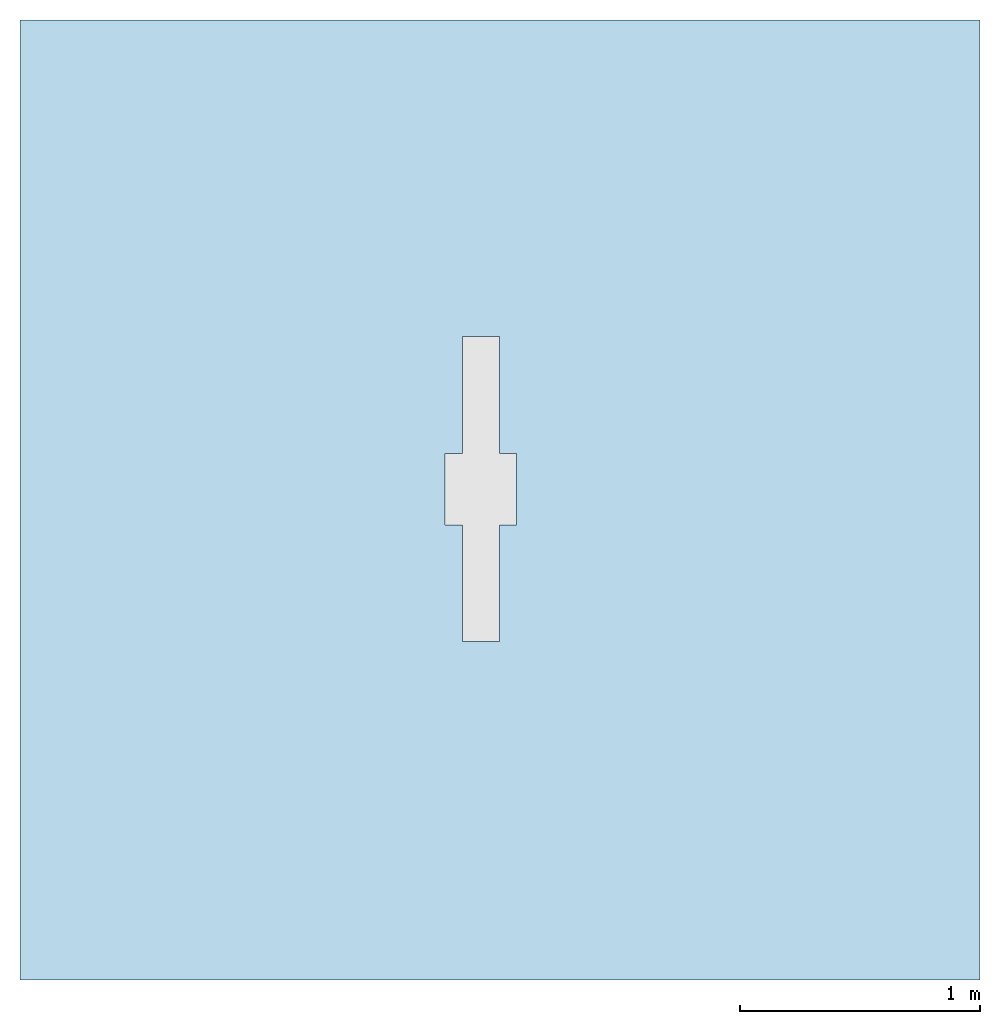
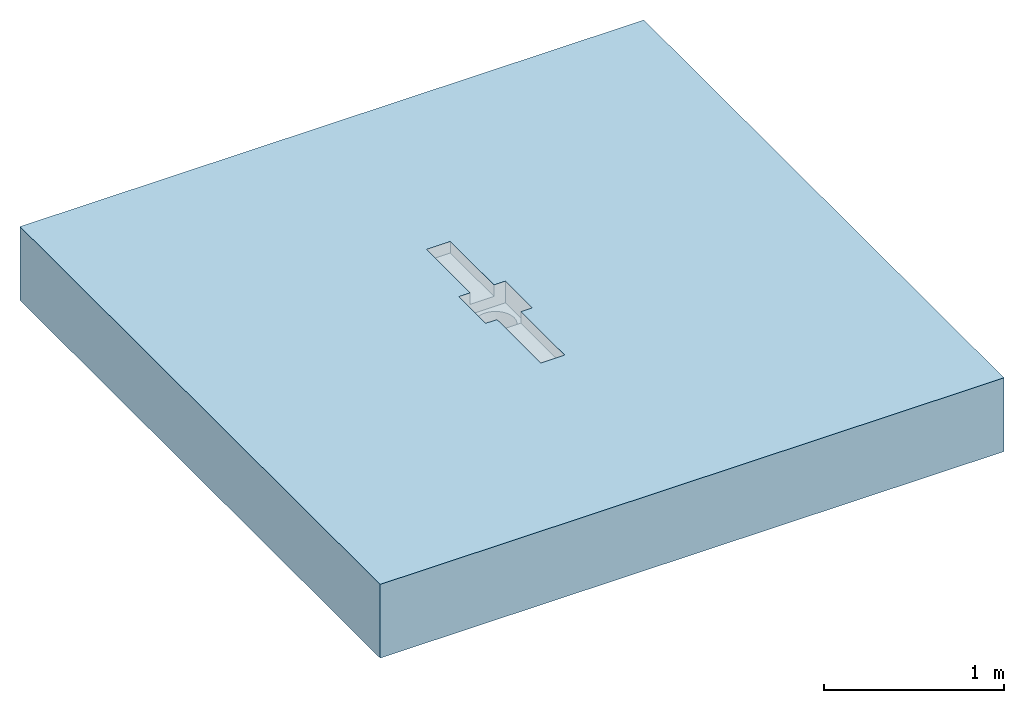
# One storey, incomplete: 1 slab, 1 opening.
"""IFC2X3 building model written with IfcOpenShell, lengths in millimetres."""

from ifc_helpers import new_model, entity, si_unit, converted_unit, direction, frame, frame_2d, origin, place, context, subcontext, project, spatial, rectangle, extrude, faceted_brep, material, layer, layer_set, layer_usage, element, save


model = new_model("IFC2X3")

# Units and contexts
model_context = context("Model", 3, precision=1e-06, world=origin(), true_north=direction((2.0, 6.12303176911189e-17, 1.0)))
context_of_model = context(None, 3, precision=1e-06, world=origin(), true_north=direction((2.0, 6.12303176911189e-17, 1.0)))
body_context = subcontext(model_context, "Body", "Model", "MODEL_VIEW")
ifc_project = project(units=[si_unit("LENGTHUNIT", "METRE", prefix="MILLI"), si_unit("AREAUNIT", "SQUARE_METRE", prefix="MILLI"), si_unit("VOLUMEUNIT", "CUBIC_METRE", prefix="MILLI"), converted_unit("PLANEANGLEUNIT", "DEGREE", entity("IfcRatioMeasure", 0.0174532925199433), si_unit("PLANEANGLEUNIT", "RADIAN"), dimensions=[0, 0, 0, 0, 0, 0, 0]), si_unit("TIMEUNIT", "SECOND")], contexts=[model_context, context_of_model])

# Site, building, storey
site_placement = place(None, origin())
site = spatial("IfcSite", under=ifc_project, at=site_placement, Name="Default", CompositionType="ELEMENT")
building_placement = place(site_placement, origin())
building = spatial("IfcBuilding", under=site, at=building_placement, CompositionType="ELEMENT")
storey_placement = place(building_placement, origin())
storey = spatial("IfcBuildingStorey", under=building, at=storey_placement, Name="Level 1", CompositionType="ELEMENT", Elevation=0.0)

# Slab, opening
ifc_material = material(Name="Concrete, Broom Finish")
ifc_layer = layer(ifc_material, 500.0)
ifc_layer_set = layer_set([ifc_layer], Name="Floor:Generic Floor - 500mm")
ifc_layer_usage = layer_usage(ifc_layer_set, "AXIS3", "POSITIVE", 0.0)
slab_placement = place(storey_placement, origin())
slab = element("IfcSlab", 1, at=slab_placement, inside=storey, material=ifc_layer_usage, Name="Floor:Generic Floor - 500mm", ObjectType="Floor:Generic Floor - 500mm", PredefinedType="FLOOR", context=body_context, shape_type="SweptSolid", body=[
    extrude(rectangle(XDim=4000.0, YDim=4000.0, at=frame_2d((0.0, 0.0), x_axis=(-1.0, 0.0))), frame((-419.114478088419, -735.273497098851, 0.0), z_axis=(0.0, 0.0, -1.0), x_axis=(-1.0, 0.0, 0.0)), (0.0, 0.0, 1.0), 500.0),
])
opening_placement = place(slab_placement, frame((-647.542058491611, -1324.80594348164, -378.300000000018)))
element("IfcOpeningElement", 2, at=opening_placement, cuts=slab, ObjectType="Recess", context=body_context, shape_type="Brep", body=[
    faceted_brep([(72.5000000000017, 0.0, 300.500000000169), (72.5000000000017, 486.0, 300.500000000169), (72.5000000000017, 486.0, 378.300000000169), (72.5000000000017, 0.0, 378.300000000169), (72.5000000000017, 784.0, 378.300000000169), (72.5000000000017, 1270.0, 300.500000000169), (72.5000000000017, 1270.0, 378.300000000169), (72.5000000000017, 784.0, 300.500000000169), (225.499999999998, 784.0, 300.500000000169), (225.499999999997, 1270.0, 378.300000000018), (225.499999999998, 1270.0, 300.500000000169), (225.499999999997, 784.0, 378.300000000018), (225.499999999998, 0.0, 300.500000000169), (225.499999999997, 486.0, 378.300000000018), (225.499999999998, 486.0, 300.500000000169), (225.499999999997, 0.0, 378.300000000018), (0.0, 784.0, 378.30000000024), (298.0, 784.0, 378.299999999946), (0.0, 486.0, 378.30000000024), (298.0, 486.0, 378.299999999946), (33.0889008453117, 666.058285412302, 232.050000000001), (45.0769515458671, 695.0, 232.050000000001), (0.0, 784.0, 232.050000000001), (64.1471862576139, 719.852813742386, 232.050000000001), (29.0, 635.0, 232.050000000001), (117.941714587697, 750.911099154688, 232.050000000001), (149.0, 755.0, 232.050000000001), (89.0, 738.923048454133, 232.050000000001), (298.0, 784.0, 232.050000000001), (33.0889008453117, 603.941714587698, 232.050000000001), (0.0, 486.0, 232.050000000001), (45.0769515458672, 575.0, 232.050000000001), (64.147186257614, 550.147186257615, 232.050000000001), (117.941714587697, 519.088900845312, 232.050000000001), (89.0, 531.076951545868, 232.050000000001), (149.0, 515.0, 232.050000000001), (180.058285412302, 750.911099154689, 232.050000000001), (209.0, 738.923048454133, 232.050000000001), (233.852813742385, 719.852813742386, 232.050000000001), (264.911099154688, 666.058285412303, 232.050000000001), (252.923048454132, 695.0, 232.050000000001), (269.0, 635.0, 232.050000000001), (298.0, 486.0, 232.050000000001), (209.0, 531.076951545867, 232.050000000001), (180.058285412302, 519.088900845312, 232.050000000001), (264.911099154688, 603.941714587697, 232.050000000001), (252.923048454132, 575.0, 232.050000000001), (233.852813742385, 550.147186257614, 232.050000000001), (180.058285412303, 750.911099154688, 0.0), (149.0, 755.0, 0.0), (233.852813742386, 719.852813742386, 0.0), (209.0, 738.923048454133, 0.0), (264.911099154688, 666.058285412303, 0.0), (252.923048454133, 695.0, 0.0), (45.0769515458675, 695.0, 0.0), (29.0, 635.0, 0.0), (64.1471862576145, 719.852813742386, 0.0), (89.0, 738.923048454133, 0.0), (117.941714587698, 750.911099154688, 0.0), (33.0889008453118, 666.058285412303, 0.0), (45.0769515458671, 575.0, 0.0), (264.911099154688, 603.941714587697, 0.0), (64.147186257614, 550.147186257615, 0.0), (252.923048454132, 575.0, 0.0), (233.852813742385, 550.147186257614, 0.0), (180.058285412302, 519.088900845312, 0.0), (209.0, 531.076951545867, 0.0), (33.0889008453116, 603.941714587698, 0.0), (117.941714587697, 519.088900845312, 0.0), (149.0, 515.0, 0.0), (89.0, 531.076951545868, 0.0), (269.0, 635.0, 0.0)], [[[0, 1, 2]], [[2, 3, 0]], [[4, 5, 6]], [[5, 4, 7]], [[8, 9, 10]], [[9, 8, 11]], [[12, 13, 14]], [[13, 12, 15]], [[7, 10, 5]], [[10, 7, 8]], [[0, 14, 1]], [[14, 0, 12]], [[5, 9, 6]], [[9, 5, 10]], [[15, 12, 0]], [[0, 3, 15]], [[2, 16, 4]], [[11, 4, 6]], [[6, 9, 11]], [[13, 11, 17]], [[11, 13, 4]], [[16, 2, 18]], [[13, 3, 2]], [[3, 13, 15]], [[17, 19, 13]], [[4, 13, 2]], [[20, 21, 22]], [[23, 22, 21]], [[24, 20, 22]], [[22, 25, 26]], [[22, 23, 27]], [[22, 27, 25]], [[26, 28, 22]], [[29, 24, 30]], [[22, 30, 24]], [[31, 29, 30]], [[30, 32, 31]], [[30, 33, 34]], [[30, 34, 32]], [[35, 33, 30]], [[28, 36, 37]], [[28, 37, 38]], [[39, 28, 40]], [[38, 40, 28]], [[28, 39, 41]], [[41, 42, 28]], [[28, 26, 36]], [[42, 43, 44]], [[42, 44, 35]], [[42, 45, 46]], [[43, 42, 47]], [[46, 47, 42]], [[42, 41, 45]], [[30, 42, 35]], [[28, 7, 22]], [[16, 22, 7]], [[17, 8, 28]], [[7, 28, 8]], [[7, 4, 16]], [[8, 17, 11]], [[17, 28, 42]], [[42, 19, 17]], [[30, 14, 42]], [[19, 42, 14]], [[18, 1, 30]], [[14, 30, 1]], [[14, 13, 19]], [[1, 18, 2]], [[18, 30, 22]], [[22, 16, 18]], [[48, 49, 50]], [[51, 48, 50]], [[52, 53, 50]], [[54, 50, 49]], [[52, 50, 55]], [[56, 54, 57]], [[49, 58, 57]], [[59, 55, 54]], [[54, 49, 57]], [[54, 55, 50]], [[55, 60, 52]], [[61, 52, 62]], [[63, 61, 64]], [[61, 65, 66]], [[64, 61, 66]], [[65, 61, 62]], [[52, 60, 62]], [[60, 55, 67]], [[68, 69, 70]], [[62, 70, 69]], [[65, 62, 69]], [[52, 61, 71]], [[60, 67, 29]], [[60, 31, 62]], [[68, 70, 34]], [[32, 70, 62]], [[69, 68, 33]], [[55, 24, 67]], [[24, 29, 67]], [[29, 31, 60]], [[31, 32, 62]], [[70, 32, 34]], [[34, 33, 68]], [[33, 35, 69]], [[66, 65, 44]], [[66, 43, 64]], [[61, 63, 46]], [[47, 63, 64]], [[71, 61, 45]], [[35, 44, 65]], [[44, 43, 66]], [[43, 47, 64]], [[47, 46, 63]], [[61, 46, 45]], [[45, 41, 71]], [[69, 35, 65]], [[39, 52, 71]], [[48, 51, 37]], [[50, 38, 51]], [[48, 36, 49]], [[41, 39, 71]], [[53, 52, 39]], [[40, 53, 39]], [[40, 50, 53]], [[40, 38, 50]], [[51, 38, 37]], [[37, 36, 48]], [[36, 26, 49]], [[57, 58, 25]], [[57, 27, 56]], [[59, 54, 21]], [[23, 54, 56]], [[55, 59, 20]], [[26, 25, 58]], [[25, 27, 57]], [[27, 23, 56]], [[23, 21, 54]], [[59, 21, 20]], [[20, 24, 55]], [[49, 26, 58]]]),
])

save(model, "model.ifc")
